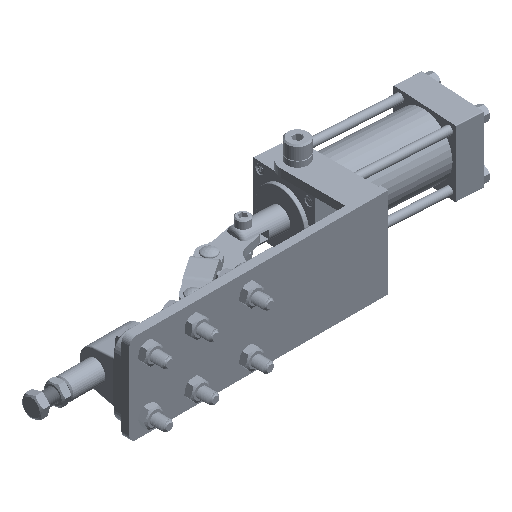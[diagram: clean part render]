
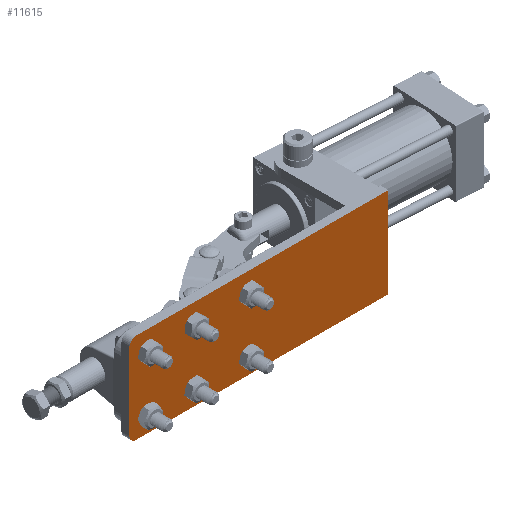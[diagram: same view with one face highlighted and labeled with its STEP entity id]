
A CAD part, isometric view. The second image highlights one B-rep face of the part: STEP entity #11615.
In plain terms, the highlighted planar face has unit normal (0, -1, 0).
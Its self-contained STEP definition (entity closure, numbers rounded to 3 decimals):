
#641=FACE_BOUND('',#2136,.T.);
#642=FACE_BOUND('',#2137,.T.);
#643=FACE_BOUND('',#2138,.T.);
#644=FACE_BOUND('',#2139,.T.);
#645=FACE_BOUND('',#2140,.T.);
#646=FACE_BOUND('',#2141,.T.);
#868=PLANE('',#12838);
#1451=FACE_OUTER_BOUND('',#2135,.T.);
#2135=EDGE_LOOP('',(#10342,#10343,#10344,#10345,#10346,#10347));
#2136=EDGE_LOOP('',(#10348));
#2137=EDGE_LOOP('',(#10349));
#2138=EDGE_LOOP('',(#10350));
#2139=EDGE_LOOP('',(#10351));
#2140=EDGE_LOOP('',(#10352));
#2141=EDGE_LOOP('',(#10353));
#2607=CIRCLE('',#12819,4.35);
#2609=CIRCLE('',#12822,4.35);
#2611=CIRCLE('',#12825,4.35);
#2613=CIRCLE('',#12828,4.35);
#2615=CIRCLE('',#12831,4.35);
#2617=CIRCLE('',#12834,4.35);
#2620=CIRCLE('',#12839,5.);
#2621=CIRCLE('',#12840,5.);
#3754=LINE('',#43714,#4505);
#3755=LINE('',#43716,#4506);
#3756=LINE('',#43720,#4507);
#3757=LINE('',#43723,#4508);
#4505=VECTOR('',#15196,1000.);
#4506=VECTOR('',#15197,1000.);
#4507=VECTOR('',#15200,1000.);
#4508=VECTOR('',#15203,1000.);
#5598=VERTEX_POINT('',#43665);
#5600=VERTEX_POINT('',#43671);
#5602=VERTEX_POINT('',#43677);
#5604=VERTEX_POINT('',#43683);
#5606=VERTEX_POINT('',#43689);
#5608=VERTEX_POINT('',#43695);
#5615=VERTEX_POINT('',#43712);
#5616=VERTEX_POINT('',#43713);
#5617=VERTEX_POINT('',#43715);
#5618=VERTEX_POINT('',#43717);
#5619=VERTEX_POINT('',#43719);
#5620=VERTEX_POINT('',#43721);
#7215=EDGE_CURVE('',#5598,#5598,#2607,.T.);
#7218=EDGE_CURVE('',#5600,#5600,#2609,.T.);
#7221=EDGE_CURVE('',#5602,#5602,#2611,.T.);
#7224=EDGE_CURVE('',#5604,#5604,#2613,.T.);
#7227=EDGE_CURVE('',#5606,#5606,#2615,.T.);
#7230=EDGE_CURVE('',#5608,#5608,#2617,.T.);
#7237=EDGE_CURVE('',#5615,#5616,#3754,.T.);
#7238=EDGE_CURVE('',#5617,#5615,#3755,.T.);
#7239=EDGE_CURVE('',#5618,#5617,#2620,.T.);
#7240=EDGE_CURVE('',#5619,#5618,#3756,.T.);
#7241=EDGE_CURVE('',#5620,#5619,#2621,.T.);
#7242=EDGE_CURVE('',#5616,#5620,#3757,.T.);
#10342=ORIENTED_EDGE('',*,*,#7237,.F.);
#10343=ORIENTED_EDGE('',*,*,#7238,.F.);
#10344=ORIENTED_EDGE('',*,*,#7239,.F.);
#10345=ORIENTED_EDGE('',*,*,#7240,.F.);
#10346=ORIENTED_EDGE('',*,*,#7241,.F.);
#10347=ORIENTED_EDGE('',*,*,#7242,.F.);
#10348=ORIENTED_EDGE('',*,*,#7215,.T.);
#10349=ORIENTED_EDGE('',*,*,#7218,.T.);
#10350=ORIENTED_EDGE('',*,*,#7221,.T.);
#10351=ORIENTED_EDGE('',*,*,#7224,.T.);
#10352=ORIENTED_EDGE('',*,*,#7227,.T.);
#10353=ORIENTED_EDGE('',*,*,#7230,.T.);
#11615=ADVANCED_FACE('',(#1451,#641,#642,#643,#644,#645,#646),#868,.T.);
#12819=AXIS2_PLACEMENT_3D('',#43667,#15147,#15148);
#12822=AXIS2_PLACEMENT_3D('',#43673,#15154,#15155);
#12825=AXIS2_PLACEMENT_3D('',#43679,#15161,#15162);
#12828=AXIS2_PLACEMENT_3D('',#43685,#15168,#15169);
#12831=AXIS2_PLACEMENT_3D('',#43691,#15175,#15176);
#12834=AXIS2_PLACEMENT_3D('',#43697,#15182,#15183);
#12838=AXIS2_PLACEMENT_3D('',#43711,#15194,#15195);
#12839=AXIS2_PLACEMENT_3D('',#43718,#15198,#15199);
#12840=AXIS2_PLACEMENT_3D('',#43722,#15201,#15202);
#15147=DIRECTION('center_axis',(0.,1.,0.));
#15148=DIRECTION('ref_axis',(-1.,0.,0.));
#15154=DIRECTION('center_axis',(0.,1.,0.));
#15155=DIRECTION('ref_axis',(-1.,0.,0.));
#15161=DIRECTION('center_axis',(0.,1.,0.));
#15162=DIRECTION('ref_axis',(-1.,0.,0.));
#15168=DIRECTION('center_axis',(0.,1.,0.));
#15169=DIRECTION('ref_axis',(-1.,0.,0.));
#15175=DIRECTION('center_axis',(0.,1.,0.));
#15176=DIRECTION('ref_axis',(-1.,0.,0.));
#15182=DIRECTION('center_axis',(0.,1.,0.));
#15183=DIRECTION('ref_axis',(-1.,0.,0.));
#15194=DIRECTION('center_axis',(0.,-1.,0.));
#15195=DIRECTION('ref_axis',(0.,0.,-1.));
#15196=DIRECTION('',(0.,0.,-1.));
#15197=DIRECTION('',(1.,0.,0.));
#15198=DIRECTION('center_axis',(0.,1.,0.));
#15199=DIRECTION('ref_axis',(0.,0.,-1.));
#15200=DIRECTION('',(0.,0.,1.));
#15201=DIRECTION('center_axis',(0.,1.,0.));
#15202=DIRECTION('ref_axis',(0.,0.,1.));
#15203=DIRECTION('',(-1.,0.,0.));
#43665=CARTESIAN_POINT('',(16.466,0.,-17.054));
#43667=CARTESIAN_POINT('Origin',(12.116,0.,-17.054));
#43671=CARTESIAN_POINT('',(-59.734,0.,24.246));
#43673=CARTESIAN_POINT('Origin',(-64.084,0.,24.246));
#43677=CARTESIAN_POINT('',(-59.734,0.,-17.054));
#43679=CARTESIAN_POINT('Origin',(-64.084,0.,-17.054));
#43683=CARTESIAN_POINT('',(-24.834,0.,-17.054));
#43685=CARTESIAN_POINT('Origin',(-29.184,0.,-17.054));
#43689=CARTESIAN_POINT('',(-24.834,0.,24.246));
#43691=CARTESIAN_POINT('Origin',(-29.184,0.,24.246));
#43695=CARTESIAN_POINT('',(16.466,0.,24.246));
#43697=CARTESIAN_POINT('Origin',(12.116,0.,24.246));
#43711=CARTESIAN_POINT('Origin',(-71.784,0.,32.546));
#43712=CARTESIAN_POINT('',(118.516,0.,37.546));
#43713=CARTESIAN_POINT('',(118.516,0.,-30.454));
#43714=CARTESIAN_POINT('',(118.516,0.,-30.454));
#43715=CARTESIAN_POINT('',(-71.784,0.,37.546));
#43716=CARTESIAN_POINT('',(-71.784,0.,37.546));
#43717=CARTESIAN_POINT('',(-76.784,0.,32.546));
#43718=CARTESIAN_POINT('Origin',(-71.784,0.,32.546));
#43719=CARTESIAN_POINT('',(-76.784,0.,-25.454));
#43720=CARTESIAN_POINT('',(-76.784,0.,-25.454));
#43721=CARTESIAN_POINT('',(-71.784,0.,-30.454));
#43722=CARTESIAN_POINT('Origin',(-71.784,0.,-25.454));
#43723=CARTESIAN_POINT('',(-71.784,0.,-30.454));
